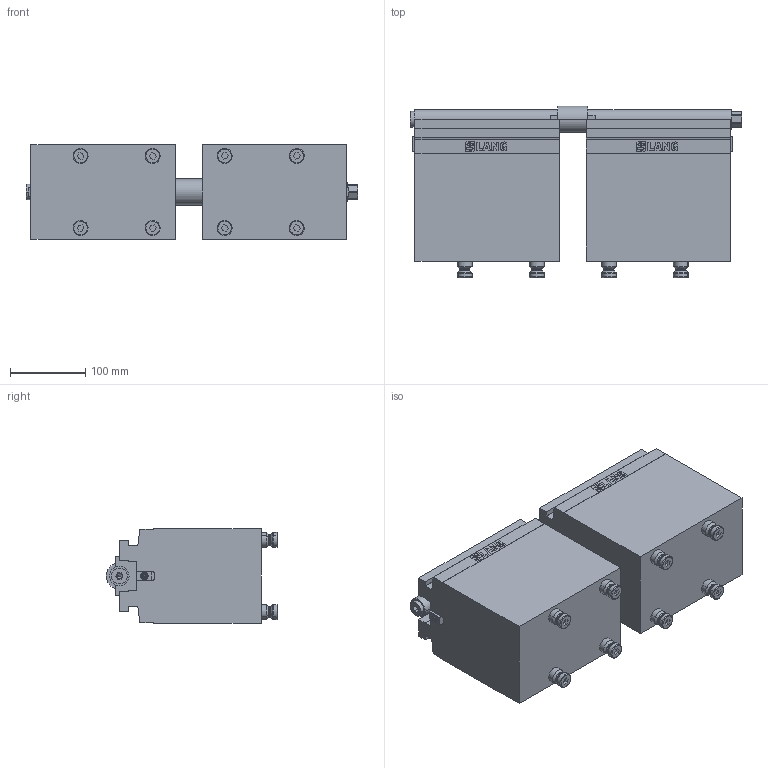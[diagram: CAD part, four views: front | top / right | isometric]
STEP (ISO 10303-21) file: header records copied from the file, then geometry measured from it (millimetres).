
FILE_DESCRIPTION (( 'STEP AP214' ), '1' );
FILE_NAME ('81423.STEP', '2020-10-28T07:20:34', ( '' ), ( '' ), 'SwSTEP 2.0', 'SolidWorks 2019', '' );
FILE_SCHEMA (( 'AUTOMOTIVE_DESIGN' ));
Length unit declared in the file: millimetre
Products named in the file (1): 81423
Bounding box: 441 x 228.5 x 125.6 mm (x, y, z)
Volume: 8679628.4 mm3; surface area: 448654.9 mm2
Topology: 23 solids, 23 shells, 1071 faces, 2643 edges, 1686 vertices
Faces by surface type: plane 658, cylinder 159, cone 102, bspline 80, torus 72
Entity records: 44022 total; most frequent: CARTESIAN_POINT 6815, ORIENTED_EDGE 5238, DIRECTION 5005, EDGE_CURVE 2619, VECTOR 1901, LINE 1901, VERTEX_POINT 1686, AXIS2_PLACEMENT_3D 1552
